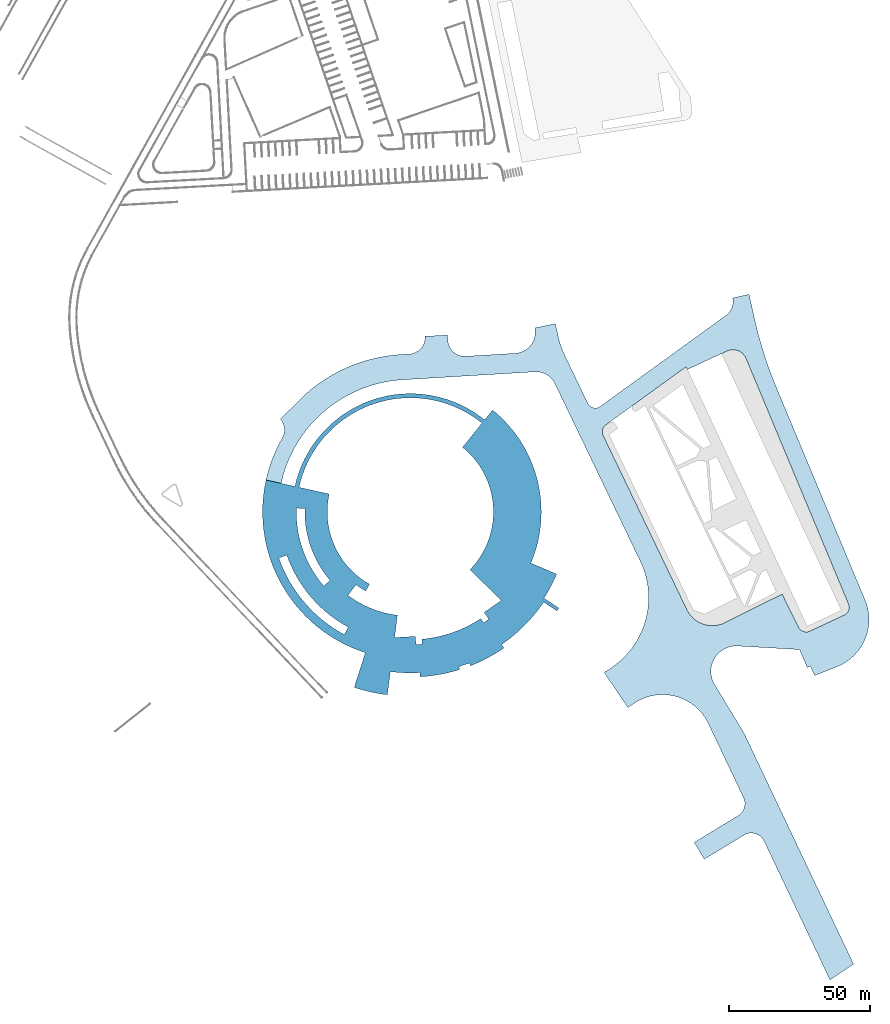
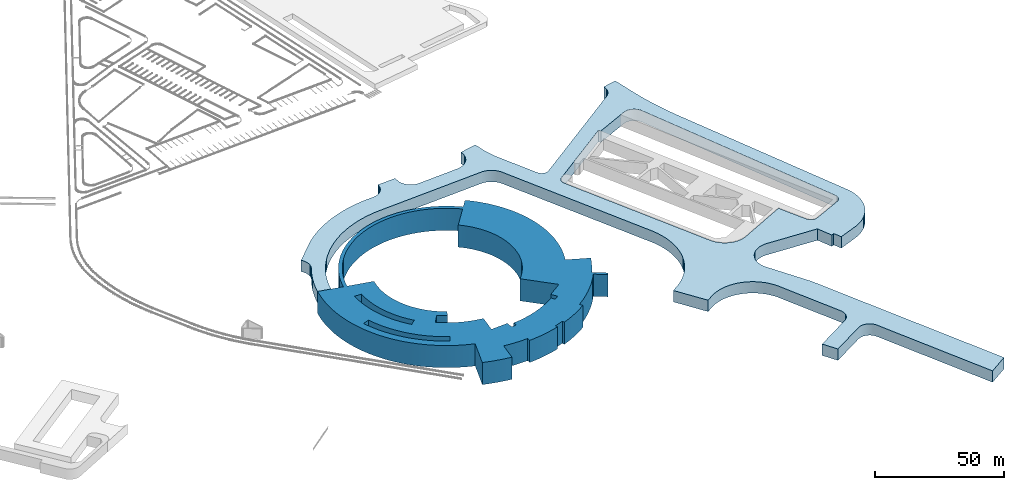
# One storey, part 12 of 112: 2 slabs.
"""IFC2X3 building model written with IfcOpenShell, lengths in millimetres."""

from ifc_helpers import new_model, entity, si_unit, converted_unit, derived_unit, direction, frame, frame_2d, origin, place, context, subcontext, project, spatial, polyline, circle_curve, parameter, trimmed, segment, composite_curve, outline, extrude, material, type_object, element, save


model = new_model("IFC2X3")

# Units and contexts
model_context = context("Model", 3, precision=0.01, world=origin(), true_north=direction((6.123031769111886e-17, 1.0)))
body_context = subcontext(model_context, "Body", "Model", "MODEL_VIEW")
ifc_project = project(units=[si_unit("LENGTHUNIT", "METRE", prefix="MILLI"), si_unit("AREAUNIT", "SQUARE_METRE"), si_unit("VOLUMEUNIT", "CUBIC_METRE"), converted_unit("PLANEANGLEUNIT", "DEGREE", entity("IfcRatioMeasure", 0.017453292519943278), si_unit("PLANEANGLEUNIT", "RADIAN"), dimensions=[0, 0, 0, 0, 0, 0, 0]), si_unit("MASSUNIT", "GRAM", prefix="KILO"), derived_unit("MASSDENSITYUNIT", [(si_unit("MASSUNIT", "GRAM", prefix="KILO"), 1), (si_unit("LENGTHUNIT", "METRE"), -3)]), derived_unit("MOMENTOFINERTIAUNIT", [(si_unit("LENGTHUNIT", "METRE"), 4)]), si_unit("TIMEUNIT", "SECOND"), si_unit("FREQUENCYUNIT", "HERTZ"), si_unit("THERMODYNAMICTEMPERATUREUNIT", "DEGREE_CELSIUS"), derived_unit("THERMALTRANSMITTANCEUNIT", [(si_unit("MASSUNIT", "GRAM", prefix="KILO"), 1), (si_unit("THERMODYNAMICTEMPERATUREUNIT", "KELVIN"), -1), (si_unit("TIMEUNIT", "SECOND"), -3)]), derived_unit("THERMALCONDUCTANCEUNIT", [(si_unit("MASSUNIT", "GRAM", prefix="KILO"), 1), (si_unit("LENGTHUNIT", "METRE"), 1), (si_unit("THERMODYNAMICTEMPERATUREUNIT", "KELVIN"), -1), (si_unit("TIMEUNIT", "SECOND"), -3)]), derived_unit("VOLUMETRICFLOWRATEUNIT", [(si_unit("LENGTHUNIT", "METRE"), 3), (si_unit("TIMEUNIT", "SECOND"), -1)]), derived_unit("MASSFLOWRATEUNIT", [(si_unit("MASSUNIT", "GRAM", prefix="KILO"), 1), (si_unit("TIMEUNIT", "SECOND"), -1)]), derived_unit("ROTATIONALFREQUENCYUNIT", [(si_unit("TIMEUNIT", "SECOND"), -1)]), si_unit("ELECTRICCURRENTUNIT", "AMPERE"), si_unit("ELECTRICVOLTAGEUNIT", "VOLT"), si_unit("POWERUNIT", "WATT"), converted_unit("FORCEUNIT", "KIP", entity("IfcRatioMeasure", 2.088543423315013e-05), si_unit("FORCEUNIT", "NEWTON"), dimensions=[1, 1, -2, 0, 0, 0, 0]), si_unit("ILLUMINANCEUNIT", "LUX"), si_unit("LUMINOUSFLUXUNIT", "LUMEN"), si_unit("LUMINOUSINTENSITYUNIT", "CANDELA"), derived_unit("USERDEFINED", [(si_unit("MASSUNIT", "GRAM", prefix="KILO"), -1), (si_unit("LENGTHUNIT", "METRE"), -2), (si_unit("TIMEUNIT", "SECOND"), 3), (si_unit("LUMINOUSFLUXUNIT", "LUMEN"), 1)]), derived_unit("USERDEFINED", [(si_unit("MASSUNIT", "GRAM", prefix="KILO"), 1), (si_unit("LENGTHUNIT", "METRE"), 3), (si_unit("TIMEUNIT", "SECOND"), -3), (si_unit("ELECTRICCURRENTUNIT", "AMPERE"), -2)]), derived_unit("USERDEFINED", [(si_unit("LENGTHUNIT", "METRE"), 2), (si_unit("TIMEUNIT", "SECOND"), -2)]), derived_unit("SOUNDPOWERUNIT", [(si_unit("MASSUNIT", "GRAM", prefix="KILO"), 1), (si_unit("LENGTHUNIT", "METRE"), 2), (si_unit("TIMEUNIT", "SECOND"), -3)]), derived_unit("SOUNDPRESSUREUNIT", [(si_unit("MASSUNIT", "GRAM", prefix="KILO"), 1), (si_unit("LENGTHUNIT", "METRE"), -1), (si_unit("TIMEUNIT", "SECOND"), -2)]), derived_unit("LINEARVELOCITYUNIT", [(si_unit("LENGTHUNIT", "METRE"), 1), (si_unit("TIMEUNIT", "SECOND"), -1)]), si_unit("PRESSUREUNIT", "PASCAL"), derived_unit("USERDEFINED", [(si_unit("LENGTHUNIT", "METRE"), -2), (si_unit("MASSUNIT", "GRAM", prefix="KILO"), 1), (si_unit("TIMEUNIT", "SECOND"), -2)]), derived_unit("LINEARFORCEUNIT", [(si_unit("MASSUNIT", "GRAM", prefix="KILO"), 1), (si_unit("LENGTHUNIT", "METRE"), 1), (si_unit("TIMEUNIT", "SECOND"), -2), (si_unit("LENGTHUNIT", "METRE"), -1)]), derived_unit("PLANARFORCEUNIT", [(si_unit("MASSUNIT", "GRAM", prefix="KILO"), 1), (si_unit("LENGTHUNIT", "METRE"), 1), (si_unit("TIMEUNIT", "SECOND"), -2), (si_unit("LENGTHUNIT", "METRE"), -2)]), derived_unit("SPECIFICHEATCAPACITYUNIT", [(si_unit("LENGTHUNIT", "METRE"), 2), (si_unit("TIMEUNIT", "SECOND"), -2), (si_unit("THERMODYNAMICTEMPERATUREUNIT", "KELVIN"), -1)]), derived_unit("VAPORPERMEABILITYUNIT", [(si_unit("TIMEUNIT", "SECOND"), 1), (si_unit("LENGTHUNIT", "METRE"), -1)]), derived_unit("DYNAMICVISCOSITYUNIT", [(si_unit("MASSUNIT", "GRAM", prefix="KILO"), 1), (si_unit("LENGTHUNIT", "METRE"), -1), (si_unit("TIMEUNIT", "SECOND"), -1)]), derived_unit("THERMALEXPANSIONCOEFFICIENTUNIT", [(si_unit("THERMODYNAMICTEMPERATUREUNIT", "KELVIN"), -1)])], contexts=[model_context])

# Site, building, storey
site_placement = place(None, frame((0.0, 0.0, 0.0), z_axis=(0.0, 0.0, 1.0), x_axis=(0.8191520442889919, 0.5735764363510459, 0.0)))
site = spatial("IfcSite", under=ifc_project, at=site_placement, Name="Default", CompositionType="ELEMENT")
building_placement = place(site_placement, origin())
building = spatial("IfcBuilding", under=site, at=building_placement, CompositionType="ELEMENT")
storey_placement = place(building_placement, frame((0.0, 0.0, -3600.0)))
storey = spatial("IfcBuildingStorey", under=building, at=storey_placement, Name="0.UG -3.60", CompositionType="ELEMENT", Elevation=-3600.0000000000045)

# Slabs
ifc_material_1 = material(Name="_granite_01 nastilka svetla")
slab_type_1 = type_object("IfcSlabType", Name="Slab-169", PredefinedType="FLOOR", material=ifc_material_1)
slab_1_placement = place(storey_placement, origin())
element("IfcSlab", 1, at=slab_1_placement, inside=storey, type_object=slab_type_1, Name="Slab-169 211361:Slab-169 211361", ObjectType="Slab-169 211361:Slab-169 211361", PredefinedType="FLOOR", context=body_context, shape_type="SweptSolid", body=[
    extrude(outline(composite_curve([segment(trimmed(circle_curve(frame_2d((-11319.644596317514, -27590.17310465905), x_axis=(1.0, 0.0)), 52500.00000000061), [parameter(359.99999999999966)], [parameter(21.17647058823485)], True, "PARAMETER"), True, "CONTINUOUS"), segment(trimmed(circle_curve(frame_2d((-11319.644596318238, -27590.17310466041), x_axis=(0.932472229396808, 0.3612416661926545)), 52500.000000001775), [parameter(0.0)], [parameter(10.58823529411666)], True, "PARAMETER"), True, "CONTINUOUS"), segment(polyline([(33316.755029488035, 47.51544640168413), (44369.57779397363, 6891.133563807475)]), True, "CONTINUOUS"), segment(trimmed(circle_curve(frame_2d((-11319.644596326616, -27590.173104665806), x_axis=(0.8502171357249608, 0.5264321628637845)), 65500.000000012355), [parameter(0.0)], [parameter(10.588235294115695)], True, "PARAMETER"), True, "CONTINUOUS"), segment(polyline([(37085.439481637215, 16536.89155419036), (30951.66546870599, 10945.217711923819)]), True, "CONTINUOUS"), segment(trimmed(circle_curve(frame_2d((-11319.644596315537, -27590.17310465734), x_axis=(0.739008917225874, 0.6736956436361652)), 57199.99999999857), [parameter(0.0)], [parameter(10.588235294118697)], True, "PARAMETER"), True, "CONTINUOUS"), segment(polyline([(23151.056604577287, 18056.41229577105), (24055.008559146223, 19253.43813669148)]), True, "CONTINUOUS"), segment(trimmed(circle_curve(frame_2d((-11319.644596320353, -27590.17310466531), x_axis=(0.602634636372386, 0.7980172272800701)), 58700.00000000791), [parameter(0.0)], [parameter(13.947168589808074)], True, "PARAMETER"), True, "CONTINUOUS"), segment(polyline([(11721.526875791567, 26398.66293755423), (11342.201029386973, 25418.629141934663)]), True, "CONTINUOUS"), segment(polyline([(11342.201029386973, 25418.629141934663), (7611.8747216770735, 26862.46628641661)]), True, "CONTINUOUS"), segment(polyline([(7611.8747216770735, 26862.46628641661), (7991.200575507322, 27842.50010122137)]), True, "CONTINUOUS"), segment(trimmed(circle_curve(frame_2d((-11319.64459631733, -27590.17310466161), x_axis=(0.3289752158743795, 0.9443385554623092)), 58700.00000000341), [parameter(0.0)], [parameter(13.239100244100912)], True, "PARAMETER"), True, "CONTINUOUS"), segment(polyline([(-5216.952323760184, 30791.734598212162), (-5355.364672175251, 29298.027473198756)]), True, "CONTINUOUS"), segment(trimmed(circle_curve(frame_2d((-11319.64459631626, -27590.173104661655), x_axis=(0.10427062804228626, 0.9945489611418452)), 57200.00000000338), [parameter(359.99999999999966)], [parameter(21.366655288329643)], True, "PARAMETER"), True, "CONTINUOUS"), segment(polyline([(-26491.6567556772, 27560.98324800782), (-28049.628707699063, 33036.68668311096)]), True, "CONTINUOUS"), segment(polyline([(-28049.628707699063, 33036.68668311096), (-29246.26205656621, 32706.54034618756)]), True, "CONTINUOUS"), segment(polyline([(-29246.26205656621, 32706.54034618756), (-27493.271292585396, 26545.416883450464)]), True, "CONTINUOUS"), segment(trimmed(circle_curve(frame_2d((-11319.644596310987, -27590.17310466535), x_axis=(-0.28625895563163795, 0.9581522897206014)), 56499.98499001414), [parameter(0.0)], [parameter(9.836471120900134)], True, "PARAMETER"), True, "CONTINUOUS"), segment(polyline([(-36503.85500716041, 22986.53942050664), (-32046.478139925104, 14034.919943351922)]), True, "CONTINUOUS"), segment(trimmed(circle_curve(frame_2d((-11319.644596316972, -27590.17310465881), x_axis=(-0.4457383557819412, 0.895163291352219)), 46499.99999999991), [parameter(359.99999999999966)], [parameter(63.529411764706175)], True, "PARAMETER"), True, "CONTINUOUS"), segment(polyline([(-57819.6445963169, -27590.173104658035), (-57818.75136697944, -27590.173104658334)]), True, "CONTINUOUS"), segment(trimmed(circle_curve(frame_2d((-11319.644596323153, -27590.173104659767), x_axis=(-1.0, 0.0)), 46499.106770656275), [parameter(0.0)], [parameter(10.588235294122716)], True, "PARAMETER"), True, "CONTINUOUS"), segment(polyline([(-57027.015711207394, -36134.36155267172), (-52604.51478304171, -35307.65285295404)]), True, "CONTINUOUS"), segment(trimmed(circle_curve(frame_2d((-11319.644596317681, -27590.173104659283), x_axis=(-0.9829730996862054, -0.18374951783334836)), 41999.999999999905), [parameter(0.0)], [parameter(116.47058823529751)], True, "PARAMETER"), True, "CONTINUOUS"), segment(polyline([(13991.010131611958, -61106.89665042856), (20318.673813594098, -69486.07753687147)]), True, "CONTINUOUS"), segment(trimmed(circle_curve(frame_2d((-11319.644596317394, -27590.173104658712), x_axis=(0.602634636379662, -0.798017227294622)), 52500.00000000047), [parameter(0.0)], [parameter(21.17647058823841)], True, "PARAMETER"), True, "CONTINUOUS"), segment(trimmed(circle_curve(frame_2d((-11319.644596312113, -27590.173104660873), x_axis=(0.8502171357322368, -0.5264321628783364)), 52499.999999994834), [parameter(0.0)], [parameter(10.588235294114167)], True, "PARAMETER"), True, "CONTINUOUS"), segment(trimmed(circle_curve(frame_2d((-11319.644596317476, -27590.173104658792), x_axis=(0.9324722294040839, -0.3612416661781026)), 52500.00000000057), [parameter(0.0)], [parameter(21.17647058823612)], True, "PARAMETER"), True, "CONTINUOUS")], self_intersect=False), holes=[composite_curve([segment(polyline([(34837.73075919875, -45471.63558092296), (32040.314070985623, -44387.91058236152)]), True, "CONTINUOUS"), segment(trimmed(circle_curve(frame_2d((-11319.644596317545, -27590.173104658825), x_axis=(0.9324722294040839, -0.3612416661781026)), 46500.000000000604), [parameter(0.0)], [parameter(42.352941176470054)], True, "PARAMETER"), True, "CONTINUOUS"), segment(polyline([(32040.314070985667, -10792.435626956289), (34837.73075919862, -9708.710628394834)]), True, "CONTINUOUS"), segment(trimmed(circle_curve(frame_2d((-11319.644596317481, -27590.173104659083), x_axis=(0.932472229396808, 0.3612416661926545)), 49500.00000000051), [parameter(317.64705882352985)], [parameter(0.0)], True, "PARAMETER"), False, "CONTINUOUS")], self_intersect=False), composite_curve([segment(polyline([(18610.216551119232, -54874.84667234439), (16393.189799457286, -52853.7597414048)]), True, "CONTINUOUS"), segment(trimmed(circle_curve(frame_2d((-11319.64459631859, -27590.17310465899), x_axis=(0.739008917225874, -0.673695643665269)), 37500.000000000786), [parameter(0.0)], [parameter(42.352941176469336)], True, "PARAMETER"), True, "CONTINUOUS"), segment(polyline([(26180.35540368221, -27590.17310465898), (29180.35540368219, -27590.173104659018)]), True, "CONTINUOUS"), segment(trimmed(circle_curve(frame_2d((-11319.644596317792, -27590.1731046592), x_axis=(1.0, 0.0)), 40499.999999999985), [parameter(317.6470588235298)], [parameter(0.0)], True, "PARAMETER"), False, "CONTINUOUS")], self_intersect=False), composite_curve([segment(trimmed(circle_curve(frame_2d((-11319.644596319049, -27590.17310465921), x_axis=(0.975299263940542, 0.2208876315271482)), 32300.00000000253), [parameter(0.0)], [parameter(7.350918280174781)], True, "PARAMETER"), True, "CONTINUOUS"), segment(polyline([(19010.756525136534, -16483.56390960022), (16399.340921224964, -17495.231704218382)]), True, "CONTINUOUS"), segment(trimmed(circle_curve(frame_2d((-11319.64459631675, -27590.17310465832), x_axis=(0.9396266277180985, 0.34220140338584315)), 29500.000000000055), [parameter(287.04777118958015)], [parameter(0.0)], True, "PARAMETER"), False, "CONTINUOUS"), segment(polyline([(6458.077176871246, -51131.681309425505), (13087.058177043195, -59909.87080950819)]), True, "CONTINUOUS"), segment(trimmed(circle_curve(frame_2d((-11319.644596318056, -27590.173104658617), x_axis=(0.602634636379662, -0.798017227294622)), 40500.000000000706), [parameter(328.23529411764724)], [parameter(0.0)], True, "PARAMETER"), False, "CONTINUOUS"), segment(trimmed(circle_curve(frame_2d((-11319.644596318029, -27590.173104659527), x_axis=(0.09226835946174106, -0.995734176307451)), 40499.999999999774), [parameter(307.0588235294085)], [parameter(0.0)], True, "PARAMETER"), False, "CONTINUOUS"), segment(trimmed(circle_curve(frame_2d((-11319.64459631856, -27590.173104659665), x_axis=(-0.7390089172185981, -0.673695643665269)), 40499.99999999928), [parameter(328.2352941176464)], [parameter(0.0)], True, "PARAMETER"), False, "CONTINUOUS"), segment(polyline([(-51130.05513351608, -35032.02857622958), (-40317.35103699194, -33010.78388024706)]), True, "CONTINUOUS"), segment(trimmed(circle_curve(frame_2d((-11319.644596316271, -27590.17310465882), x_axis=(-0.9829730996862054, -0.18374951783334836)), 29500.00000000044), [parameter(264.70588235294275)], [parameter(0.0)], True, "PARAMETER"), False, "CONTINUOUS"), segment(polyline([(-14041.561200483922, 1783.9850960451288), (-15478.054119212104, 17286.212528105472)]), True, "CONTINUOUS"), segment(polyline([(-15478.054119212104, 17286.212528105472), (-8031.191198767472, 16569.253801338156)]), True, "CONTINUOUS"), segment(polyline([(-8031.191198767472, 16569.253801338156), (-7761.1653700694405, 19482.29470398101)]), True, "CONTINUOUS"), segment(polyline([(-7761.1653700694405, 19482.29470398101), (-5570.550182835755, 19279.304313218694)]), True, "CONTINUOUS"), segment(polyline([(-5570.550182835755, 19279.304313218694), (-5738.625399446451, 17465.483862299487)]), True, "CONTINUOUS"), segment(trimmed(circle_curve(frame_2d((-11319.644596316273, -27590.173104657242), x_axis=(0.12292993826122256, 0.9924153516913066)), 45399.99999999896), [parameter(331.7194821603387)], [parameter(0.0)], True, "PARAMETER"), False, "CONTINUOUS"), segment(polyline([(14942.081224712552, 9443.348965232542), (16023.90733907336, 10864.130152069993)]), True, "CONTINUOUS"), segment(polyline([(16023.90733907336, 10864.130152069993), (17774.257227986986, 9531.360379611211)]), True, "CONTINUOUS"), segment(polyline([(17774.257227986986, 9531.360379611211), (16017.424327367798, 7224.080955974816)]), True, "CONTINUOUS"), segment(polyline([(16017.424327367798, 7224.080955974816), (21930.706861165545, 2721.5273425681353)]), True, "CONTINUOUS"), segment(polyline([(21930.706861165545, 2721.5273425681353), (16023.68534084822, -2663.434289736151)]), True, "CONTINUOUS"), segment(trimmed(circle_curve(frame_2d((-11319.644596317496, -27590.1731046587), x_axis=(0.739008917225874, 0.6736956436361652)), 37000.00000000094), [parameter(348.9249960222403)], [parameter(0.0)], True, "PARAMETER"), False, "CONTINUOUS"), segment(trimmed(circle_curve(frame_2d((-11319.644596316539, -27590.17310465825), x_axis=(0.8546588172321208, 0.5191900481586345)), 36999.99999999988), [parameter(350.3630988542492)], [parameter(0.0)], True, "PARAMETER"), False, "CONTINUOUS"), segment(trimmed(circle_curve(frame_2d((-11319.644596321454, -27590.17310466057), x_axis=(0.9295125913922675, 0.36879037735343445)), 37000.00000000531), [parameter(351.0993875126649)], [parameter(0.0)], True, "PARAMETER"), False, "CONTINUOUS"), segment(polyline([(24769.385593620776, -19430.399826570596), (20182.521628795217, -20455.50260593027)]), True, "CONTINUOUS")], self_intersect=False)]), frame((-48945.596734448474, -96495.58112479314, -6400.0), z_axis=(0.0, 0.0, 1.0), x_axis=(-0.9953973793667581, -0.09583348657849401, 0.0)), (0.0, 0.0, 1.0), 10500.0),
])
ifc_material_2 = material(Name="road_asfalt")
slab_type_2 = type_object("IfcSlabType", Name="Slab-169", PredefinedType="FLOOR", material=ifc_material_2)
slab_2_placement = place(storey_placement, origin())
element("IfcSlab", 2, at=slab_2_placement, inside=storey, type_object=slab_type_2, Name="Slab-169 260969:Slab-169 260969", ObjectType="Slab-169 260969:Slab-169 260969", PredefinedType="FLOOR", context=body_context, shape_type="SweptSolid", body=[
    extrude(outline(composite_curve([segment(polyline([(-124744.51590218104, -6126.800447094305), (-119244.51590218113, -6126.800447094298)]), True, "CONTINUOUS"), segment(trimmed(circle_curve(frame_2d((-72244.51590218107, -6126.800447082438), x_axis=(-1.0, 0.0)), 47000.00000000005), [parameter(285.8823529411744)], [parameter(3.5622212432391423e-13)], True, "PARAMETER"), False, "CONTINUOUS"), segment(polyline([(-85106.67643557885, 39079.004782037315), (-39836.537627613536, 51959.46979678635)]), True, "CONTINUOUS"), segment(trimmed(circle_curve(frame_2d((-37784.06520207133, 44745.77747299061), x_axis=(-0.2736629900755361, 0.9618256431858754)), 7500.000000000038), [parameter(292.2253340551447)], [parameter(3.5622212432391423e-13)], True, "PARAMETER"), False, "CONTINUOUS"), segment(polyline([(-31882.673467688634, 49374.33832895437), (11353.182936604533, -5751.160406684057)]), True, "CONTINUOUS"), segment(trimmed(circle_curve(frame_2d((-12348.525400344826, -24142.164237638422), x_axis=(0.7900569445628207, 0.6130334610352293)), 29999.99999999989), [parameter(278.0239333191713)], [parameter(3.6131101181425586e-12)], True, "PARAMETER"), False, "CONTINUOUS"), segment(polyline([(9170.871872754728, -45044.68898950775), (7266.407291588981, -47005.35787525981)]), True, "CONTINUOUS"), segment(polyline([(7266.407291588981, -47005.35787525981), (18194.984956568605, -57384.344879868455)]), True, "CONTINUOUS"), segment(polyline([(18194.984956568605, -57384.344879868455), (20065.81789244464, -55414.44714044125)]), True, "CONTINUOUS"), segment(trimmed(circle_curve(frame_2d((33117.6931023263, -67809.95251560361), x_axis=(-0.7251041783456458, 0.6886391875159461)), 18000.000000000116), [parameter(261.34016361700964)], [parameter(9.6688862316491e-13)], True, "PARAMETER"), False, "CONTINUOUS"), segment(polyline([(47337.078636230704, -56773.23764938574), (65571.25903669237, -80265.63046298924)]), True, "CONTINUOUS"), segment(polyline([(65571.25903669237, -80265.63046298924), (65538.9410291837, -80290.71485451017)]), True, "CONTINUOUS"), segment(trimmed(circle_curve(frame_2d((61230.05275882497, -82827.14578665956), x_axis=(0.8617776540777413, 0.5072861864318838)), 4999.99999999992), [parameter(283.217801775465)], [parameter(0.0)], True, "PARAMETER"), False, "CONTINUOUS"), segment(polyline([(64684.53006404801, -86441.91916098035), (51478.10511333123, -99062.70905599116)]), True, "CONTINUOUS"), segment(polyline([(51478.10511333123, -99062.70905599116), (56314.373340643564, -104123.39178004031)]), True, "CONTINUOUS"), segment(polyline([(56314.373340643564, -104123.39178004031), (68254.3349324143, -92712.9042963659)]), True, "CONTINUOUS"), segment(trimmed(circle_curve(frame_2d((71708.81223763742, -96327.67767068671), x_axis=(-0.6908954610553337, 0.7229546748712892)), 4999.999999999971), [parameter(264.11664431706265)], [parameter(3.053332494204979e-13)], True, "PARAMETER"), False, "CONTINUOUS"), segment(polyline([(75658.6415526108, -93261.92354118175), (109140.82497159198, -136399.40424285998)]), True, "CONTINUOUS"), segment(polyline([(109140.82497159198, -136399.40424285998), (116106.62927363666, -129064.74496636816)]), True, "CONTINUOUS"), segment(polyline([(116106.62927363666, -129064.74496636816), (60436.092989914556, -57340.42954344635)]), True, "CONTINUOUS"), segment(polyline([(60436.092989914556, -57340.42954344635), (46503.20979281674, -42704.243069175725)]), True, "CONTINUOUS"), segment(trimmed(circle_curve(frame_2d((53021.86162536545, -36498.827830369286), x_axis=(-0.7242946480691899, -0.6894905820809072)), 9000.000000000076), [parameter(235.60692050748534)], [parameter(1.5775551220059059e-12)], True, "PARAMETER"), False, "CONTINUOUS"), segment(polyline([(51583.43983418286, -27614.51903617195), (73274.8617980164, -24102.550378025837)]), True, "CONTINUOUS"), segment(polyline([(73274.8617980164, -24102.550378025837), (77355.79142428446, -29764.81759347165)]), True, "CONTINUOUS"), segment(polyline([(77355.79142428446, -29764.81759347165), (78338.1739382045, -29031.799499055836)]), True, "CONTINUOUS"), segment(polyline([(78338.1739382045, -29031.799499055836), (80518.64899999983, -31971.90197874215)]), True, "CONTINUOUS"), segment(polyline([(80518.64899999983, -31971.90197874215), (87609.59111868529, -27173.94014989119)]), True, "CONTINUOUS"), segment(trimmed(circle_curve(frame_2d((77522.36667459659, -12265.958964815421), x_axis=(0.5604013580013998, -0.8282211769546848)), 17999.999999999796), [parameter(1.1704441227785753e-12)], [parameter(91.00623334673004)], True, "PARAMETER"), True, "CONTINUOUS"), segment(polyline([(92250.90532185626, -1918.4882924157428), (45251.63449540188, 64980.041664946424)]), True, "CONTINUOUS"), segment(trimmed(circle_curve(frame_2d((165534.70011469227, 149484.38548954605), x_axis=(-0.8182521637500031, -0.5748594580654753)), 147000.0000000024), [parameter(349.9500397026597)], [parameter(1.6623418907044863e-06)], True, "PARAMETER"), False, "CONTINUOUS"), segment(polyline([(32350.67490772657, 87266.90057034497), (28607.817030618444, 95278.93896273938)]), True, "CONTINUOUS"), segment(polyline([(28607.817030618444, 95278.93896273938), (23171.734369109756, 92739.44978236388)]), True, "CONTINUOUS"), segment(trimmed(circle_curve(frame_2d((17735.65170760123, 90199.96060198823), x_axis=(0.9060137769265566, 0.4232481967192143)), 5999.999999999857), [parameter(293.3034463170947)], [parameter(359.9999999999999)], True, "PARAMETER"), False, "CONTINUOUS"), segment(polyline([(22218.494288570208, 86211.96331083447), (-14436.61817877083, 45008.55042404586)]), True, "CONTINUOUS"), segment(trimmed(circle_curve(frame_2d((-16678.039469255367, 47002.54906962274), x_axis=(0.7471404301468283, -0.6646662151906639)), 2999.999999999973), [parameter(259.76473909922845)], [parameter(359.99999999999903)], True, "PARAMETER"), False, "CONTINUOUS"), segment(polyline([(-19038.585542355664, 45151.11118603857), (-30319.978349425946, 59534.66017029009)]), True, "CONTINUOUS"), segment(trimmed(circle_curve(frame_2d((-1796.7132994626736, 81906.20126359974), x_axis=(-0.7868486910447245, -0.6171459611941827)), 36250.000000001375), [parameter(346.1026761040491)], [parameter(8.651108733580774e-13)], True, "PARAMETER"), False, "CONTINUOUS"), segment(polyline([(-34858.29401392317, 67040.3215162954), (-36321.308737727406, 70294.0528930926)]), True, "CONTINUOUS"), segment(polyline([(-36321.308737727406, 70294.0528930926), (-43161.635782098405, 67218.35363503)]), True, "CONTINUOUS"), segment(trimmed(circle_curve(frame_2d((-50001.96282646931, 64142.65437696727), x_axis=(0.9120436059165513, 0.4100932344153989)), 7499.999999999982), [parameter(261.6716611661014)], [parameter(1.0177774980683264e-13)], True, "PARAMETER"), False, "CONTINUOUS"), segment(polyline([(-47949.49040092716, 56928.96205317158), (-64079.1122116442, 52339.6889715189)]), True, "CONTINUOUS"), segment(trimmed(circle_curve(frame_2d((-69005.04603294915, 69652.55054864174), x_axis=(0.27366299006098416, -0.9618256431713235)), 18000.00000001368), [parameter(354.28595005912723)], [parameter(2.9515547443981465e-12)], True, "PARAMETER"), False, "CONTINUOUS"), segment(polyline([(-65827.32172194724, 51935.26892295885), (-66119.12485730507, 51882.93189198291)]), True, "CONTINUOUS"), segment(trimmed(circle_curve(frame_2d((-66585.10344156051, 57864.80985454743), x_axis=(0.07766309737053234, -0.9969796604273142)), 5999.999999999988), [parameter(281.06785253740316)], [parameter(1.0177774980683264e-13)], True, "PARAMETER"), False, "CONTINUOUS"), segment(polyline([(-72366.26710234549, 56259.14901638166), (-72867.84553052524, 58065.07646575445)]), True, "CONTINUOUS"), segment(polyline([(-72867.84553052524, 58065.07646575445), (-80576.0637449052, 55924.1953482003)]), True, "CONTINUOUS"), segment(trimmed(circle_curve(frame_2d((-86357.22740569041, 54318.53451003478), x_axis=(0.963527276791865, 0.2676101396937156)), 6000.000000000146), [parameter(270.36024734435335)], [parameter(0.0)], True, "PARAMETER"), False, "CONTINUOUS"), segment(polyline([(-84715.24946525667, 48547.58065099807), (-87569.6433462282, 47735.43557059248)]), True, "CONTINUOUS"), segment(trimmed(circle_curve(frame_2d((-72244.51590217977, -6126.8004470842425), x_axis=(-0.2736629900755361, 0.9618256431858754)), 56000.00000000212), [parameter(359.9999999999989)], [parameter(38.53625589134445)], True, "PARAMETER"), True, "CONTINUOUS"), segment(polyline([(-117788.74376131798, 26457.295500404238), (-124446.32310507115, 16114.100390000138)]), True, "CONTINUOUS"), segment(trimmed(circle_curve(frame_2d((-128076.92940791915, 11337.2083173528), x_axis=(0.6051010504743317, 0.7961486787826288)), 6000.00000000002), [parameter(289.86677698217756)], [parameter(0.0)], True, "PARAMETER"), False, "CONTINUOUS"), segment(trimmed(circle_curve(frame_2d((-72244.51590218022, -6126.800447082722), x_axis=(-0.9544002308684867, 0.298530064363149)), 52500.00000000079), [parameter(0.0)], [parameter(17.369336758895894)], True, "PARAMETER"), True, "CONTINUOUS")], self_intersect=False), holes=[composite_curve([segment(polyline([(31174.09331853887, -18869.04469165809), (-11199.513486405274, 35156.45194173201)]), True, "CONTINUOUS"), segment(trimmed(circle_curve(frame_2d((-8838.967413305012, 37007.889825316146), x_axis=(-0.7868486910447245, -0.6171459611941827)), 2999.9999999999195), [parameter(280.2352609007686)], [parameter(359.99999999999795)], True, "PARAMETER"), False, "CONTINUOUS"), segment(polyline([(-11080.388703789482, 39001.888470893), (12212.029962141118, 65184.51563591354)]), True, "CONTINUOUS"), segment(polyline([(12212.029962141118, 65184.51563591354), (12987.052569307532, 64495.04505956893)]), True, "CONTINUOUS"), segment(polyline([(12987.052569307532, 64495.04505956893), (25306.607609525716, 73893.24880957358)]), True, "CONTINUOUS"), segment(trimmed(circle_curve(frame_2d((28339.247809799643, 69917.93832916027), x_axis=(-0.6065280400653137, 0.7950620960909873)), 5000.000000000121), [parameter(267.75091338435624)], [parameter(359.9999999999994)], True, "PARAMETER"), False, "CONTINUOUS"), segment(polyline([(32430.50854514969, 72792.2357381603), (86793.66381644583, -4588.010966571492)]), True, "CONTINUOUS"), segment(trimmed(circle_curve(frame_2d((84338.90737523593, -6312.589411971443), x_axis=(0.8182521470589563, 0.5748594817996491)), 2999.999999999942), [parameter(272.3900293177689)], [parameter(0.0)], True, "PARAMETER"), False, "CONTINUOUS"), segment(polyline([(86164.35333781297, -8693.292467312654), (75429.34716893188, -16924.547358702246)]), True, "CONTINUOUS"), segment(trimmed(circle_curve(frame_2d((73603.90120635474, -14543.844303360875), x_axis=(0.6084819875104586, -0.7935676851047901)), 3000.000000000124), [parameter(271.334752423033)], [parameter(3.053332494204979e-12)], True, "PARAMETER"), False, "CONTINUOUS"), segment(polyline([(71266.36554261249, -16424.250382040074), (63021.74523963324, -6175.350311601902)]), True, "CONTINUOUS"), segment(polyline([(63021.74523963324, -6175.350311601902), (45328.315789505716, -20475.086507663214)]), True, "CONTINUOUS"), segment(trimmed(circle_curve(frame_2d((39042.58022887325, -12697.58507971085), x_axis=(0.628573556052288, -0.7777501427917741)), 9999.99999999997), [parameter(269.1630553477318)], [parameter(359.99999999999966)], True, "PARAMETER"), False, "CONTINUOUS")], self_intersect=False)]), frame((13052.526090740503, -117018.51714412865, -1450.0), z_axis=(0.0, 0.0, 1.0), x_axis=(0.6763377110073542, -0.736591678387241, 0.0)), (0.0, 0.0, 1.0), 5399.999999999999),
])

save(model, "model.ifc")
